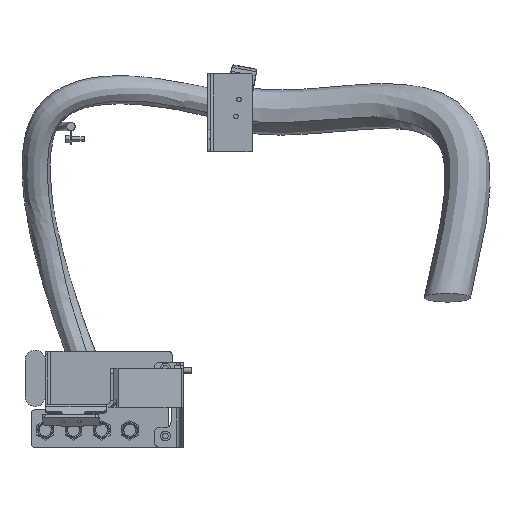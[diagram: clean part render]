
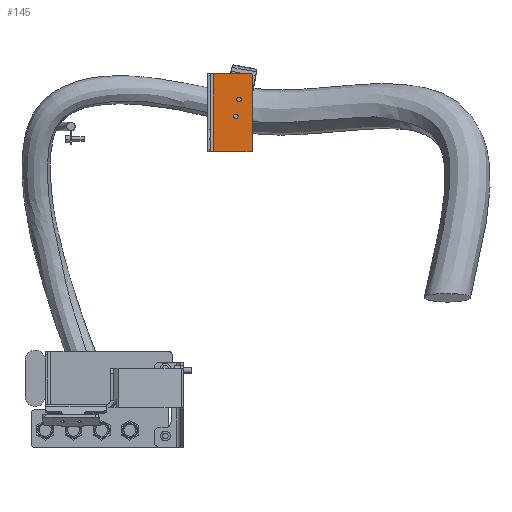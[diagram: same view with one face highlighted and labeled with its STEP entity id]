
A CAD part, left-side view. The second image highlights one B-rep face of the part: STEP entity #145.
In plain terms, the highlighted planar face has unit normal (-1, 0, 0).
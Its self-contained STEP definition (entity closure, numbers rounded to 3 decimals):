
#145 = ADVANCED_FACE ( 'NONE', ( #1988, #20240, #20380 ), #22629, .F. ) ;
#305 = CARTESIAN_POINT ( 'NONE',  ( 549., -210., 2333. ) ) ;
#672 = VERTEX_POINT ( 'NONE', #21582 ) ;
#1368 = VECTOR ( 'NONE', #2163, 1000. ) ;
#1466 = VECTOR ( 'NONE', #26671, 1000. ) ;
#1588 = CIRCLE ( 'NONE', #9284, 4. ) ;
#1983 = EDGE_CURVE ( 'NONE', #12943, #25676, #27364, .T. ) ;
#1988 = FACE_BOUND ( 'NONE', #18009, .T. ) ;
#2163 = DIRECTION ( 'NONE',  ( 0., 1., 0. ) ) ;
#2354 = DIRECTION ( 'NONE',  ( 0., 1., 0. ) ) ;
#2959 = DIRECTION ( 'NONE',  ( 1., 0., 0. ) ) ;
#4615 = ORIENTED_EDGE ( 'NONE', *, *, #15645, .T. ) ;
#4695 = EDGE_CURVE ( 'NONE', #672, #25676, #22655, .T. ) ;
#4766 = CARTESIAN_POINT ( 'NONE',  ( 549., -207., 2198. ) ) ;
#5115 = VERTEX_POINT ( 'NONE', #20328 ) ;
#5425 = VERTEX_POINT ( 'NONE', #14297 ) ;
#5810 = ORIENTED_EDGE ( 'NONE', *, *, #24191, .T. ) ;
#6529 = CARTESIAN_POINT ( 'NONE',  ( 549., -135., 2198. ) ) ;
#6660 = EDGE_CURVE ( 'NONE', #12943, #10047, #24889, .T. ) ;
#6688 = AXIS2_PLACEMENT_3D ( 'NONE', #24702, #20235, #27098 ) ;
#6818 = DIRECTION ( 'NONE',  ( 0., 1., 0. ) ) ;
#7218 = AXIS2_PLACEMENT_3D ( 'NONE', #9576, #2959, #12127 ) ;
#7526 = DIRECTION ( 'NONE',  ( 0., 1., 0. ) ) ;
#7689 = CARTESIAN_POINT ( 'NONE',  ( 549., -176., 2260.5 ) ) ;
#8328 = EDGE_LOOP ( 'NONE', ( #4615, #28298, #21571, #25897, #22462, #14550 ) ) ;
#8394 = CARTESIAN_POINT ( 'NONE',  ( 549., -207., 2333. ) ) ;
#8588 = CIRCLE ( 'NONE', #6688, 4. ) ;
#8592 = EDGE_CURVE ( 'NONE', #5425, #12277, #8588, .T. ) ;
#9025 = DIRECTION ( 'NONE',  ( 0., 0., 1. ) ) ;
#9284 = AXIS2_PLACEMENT_3D ( 'NONE', #11252, #22828, #2354 ) ;
#9576 = CARTESIAN_POINT ( 'NONE',  ( 549., -180., 2260.5 ) ) ;
#9785 = DIRECTION ( 'NONE',  ( 1., 0., 0. ) ) ;
#10047 = VERTEX_POINT ( 'NONE', #4766 ) ;
#10568 = CIRCLE ( 'NONE', #7218, 4. ) ;
#10809 = DIRECTION ( 'NONE',  ( -1., 0., 0. ) ) ;
#10894 = CARTESIAN_POINT ( 'NONE',  ( 549., -207., 2201. ) ) ;
#11252 = CARTESIAN_POINT ( 'NONE',  ( 549., -185.5, 2289.992 ) ) ;
#11336 = EDGE_CURVE ( 'NONE', #12277, #5425, #1588, .T. ) ;
#12127 = DIRECTION ( 'NONE',  ( 0., 1., 0. ) ) ;
#12277 = VERTEX_POINT ( 'NONE', #29469 ) ;
#12943 = VERTEX_POINT ( 'NONE', #26499 ) ;
#14267 = ORIENTED_EDGE ( 'NONE', *, *, #11336, .T. ) ;
#14297 = CARTESIAN_POINT ( 'NONE',  ( 549., -189.5, 2289.992 ) ) ;
#14550 = ORIENTED_EDGE ( 'NONE', *, *, #18455, .T. ) ;
#15645 = EDGE_CURVE ( 'NONE', #5115, #24793, #19032, .T. ) ;
#15656 = DIRECTION ( 'NONE',  ( 0., 1., 0. ) ) ;
#15804 = CARTESIAN_POINT ( 'NONE',  ( 549., -180., 2260.5 ) ) ;
#15812 = VERTEX_POINT ( 'NONE', #27111 ) ;
#16238 = CARTESIAN_POINT ( 'NONE',  ( 549., -135., 2336. ) ) ;
#16664 = VECTOR ( 'NONE', #28303, 1000. ) ;
#16713 = CARTESIAN_POINT ( 'NONE',  ( 549., -140., 2336. ) ) ;
#18009 = EDGE_LOOP ( 'NONE', ( #27026, #5810 ) ) ;
#18455 = EDGE_CURVE ( 'NONE', #10047, #5115, #18707, .T. ) ;
#18511 = CARTESIAN_POINT ( 'NONE',  ( 549., -140., 2198. ) ) ;
#18707 = CIRCLE ( 'NONE', #28245, 3. ) ;
#18823 = VECTOR ( 'NONE', #9025, 1000. ) ;
#19032 = LINE ( 'NONE', #20995, #16664 ) ;
#19856 = AXIS2_PLACEMENT_3D ( 'NONE', #15804, #22214, #15656 ) ;
#19884 = DIRECTION ( 'NONE',  ( 0., 1., 0. ) ) ;
#19959 = AXIS2_PLACEMENT_3D ( 'NONE', #8394, #10809, #19884 ) ;
#20235 = DIRECTION ( 'NONE',  ( 1., 0., 0. ) ) ;
#20240 = FACE_BOUND ( 'NONE', #21973, .T. ) ;
#20328 = CARTESIAN_POINT ( 'NONE',  ( 549., -210., 2201. ) ) ;
#20380 = FACE_OUTER_BOUND ( 'NONE', #8328, .T. ) ;
#20995 = CARTESIAN_POINT ( 'NONE',  ( 549., -210., 2336. ) ) ;
#21571 = ORIENTED_EDGE ( 'NONE', *, *, #4695, .T. ) ;
#21582 = CARTESIAN_POINT ( 'NONE',  ( 549., -207., 2336. ) ) ;
#21756 = CIRCLE ( 'NONE', #19856, 4. ) ;
#21936 = EDGE_CURVE ( 'NONE', #24793, #672, #23274, .T. ) ;
#21973 = EDGE_LOOP ( 'NONE', ( #14267, #26589 ) ) ;
#22037 = AXIS2_PLACEMENT_3D ( 'NONE', #27678, #9785, #7526 ) ;
#22214 = DIRECTION ( 'NONE',  ( 1., 0., 0. ) ) ;
#22462 = ORIENTED_EDGE ( 'NONE', *, *, #6660, .T. ) ;
#22629 = PLANE ( 'NONE',  #22037 ) ;
#22655 = LINE ( 'NONE', #16238, #1368 ) ;
#22828 = DIRECTION ( 'NONE',  ( 1., 0., 0. ) ) ;
#22885 = VERTEX_POINT ( 'NONE', #7689 ) ;
#23274 = CIRCLE ( 'NONE', #19959, 3. ) ;
#24191 = EDGE_CURVE ( 'NONE', #15812, #22885, #10568, .T. ) ;
#24702 = CARTESIAN_POINT ( 'NONE',  ( 549., -185.5, 2289.992 ) ) ;
#24793 = VERTEX_POINT ( 'NONE', #305 ) ;
#24889 = LINE ( 'NONE', #6529, #1466 ) ;
#25676 = VERTEX_POINT ( 'NONE', #16713 ) ;
#25897 = ORIENTED_EDGE ( 'NONE', *, *, #1983, .F. ) ;
#26499 = CARTESIAN_POINT ( 'NONE',  ( 549., -140., 2198. ) ) ;
#26589 = ORIENTED_EDGE ( 'NONE', *, *, #8592, .T. ) ;
#26671 = DIRECTION ( 'NONE',  ( 0., -1., 0. ) ) ;
#27026 = ORIENTED_EDGE ( 'NONE', *, *, #27887, .T. ) ;
#27098 = DIRECTION ( 'NONE',  ( 0., 1., 0. ) ) ;
#27111 = CARTESIAN_POINT ( 'NONE',  ( 549., -184., 2260.5 ) ) ;
#27267 = DIRECTION ( 'NONE',  ( -1., 0., 0. ) ) ;
#27364 = LINE ( 'NONE', #18511, #18823 ) ;
#27678 = CARTESIAN_POINT ( 'NONE',  ( 549., -135., 2336. ) ) ;
#27887 = EDGE_CURVE ( 'NONE', #22885, #15812, #21756, .T. ) ;
#28245 = AXIS2_PLACEMENT_3D ( 'NONE', #10894, #27267, #6818 ) ;
#28298 = ORIENTED_EDGE ( 'NONE', *, *, #21936, .T. ) ;
#28303 = DIRECTION ( 'NONE',  ( 0., 0., 1. ) ) ;
#29469 = CARTESIAN_POINT ( 'NONE',  ( 549., -181.5, 2289.992 ) ) ;
